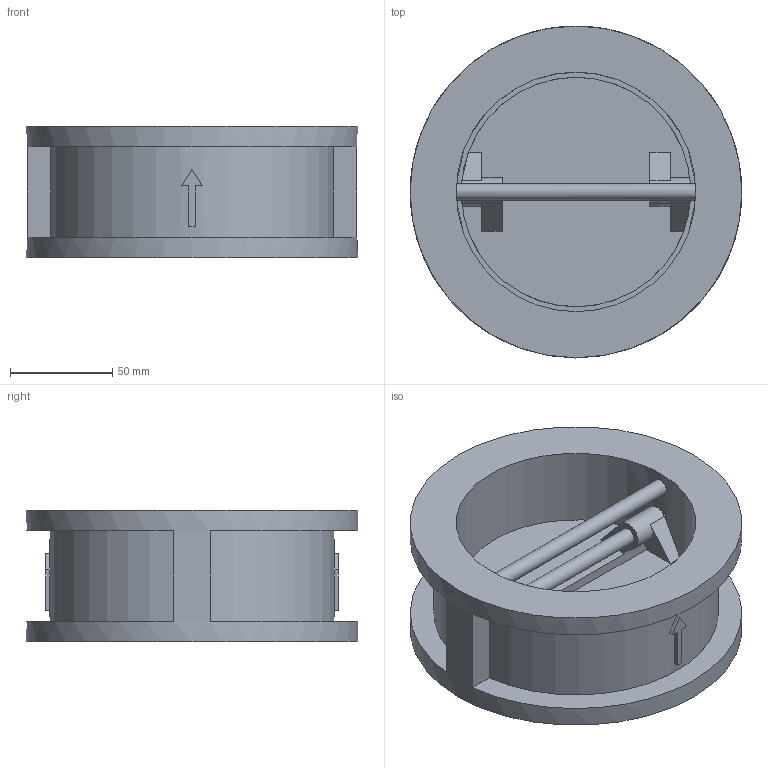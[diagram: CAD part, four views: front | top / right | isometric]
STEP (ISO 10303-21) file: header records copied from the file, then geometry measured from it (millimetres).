
FILE_DESCRIPTION(('STEP AP203'), '1');
FILE_NAME('孰囡囗 钺疣蝽 溻篚耱忸瘅囹 戾骠豚眦邂 010C DN100', '', ('UNSPECIFIED'), ('UNSPECIFIED'), 'ASCON STEP Converter 1.6', 'ASCON Math Kernel', '');
FILE_SCHEMA(('CONFIG_CONTROL_DESIGN'));
Length unit declared in the file: millimetre
Bounding box: 162 x 162 x 64 mm (x, y, z)
Volume: 586180.7 mm3; surface area: 117797.5 mm2
Topology: 1 solids, 1 shells, 73 faces, 201 edges, 132 vertices
Faces by surface type: plane 55, cylinder 16, cone 2
Full cylindrical faces by diameter (mm): 8 x4, 117 x1, 162 x1
Entity records: 3813 total; most frequent: CARTESIAN_POINT 1355, ORIENTED_EDGE 388, DIRECTION 360, EDGE_CURVE 194, VERTEX_POINT 132, LINE 124, VECTOR 124, AXIS2_PLACEMENT_3D 118
